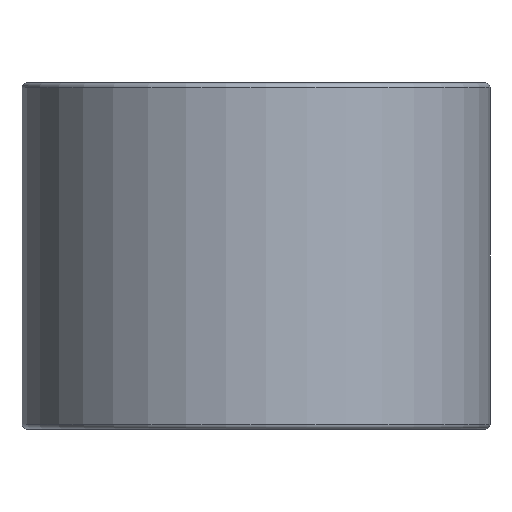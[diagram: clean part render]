
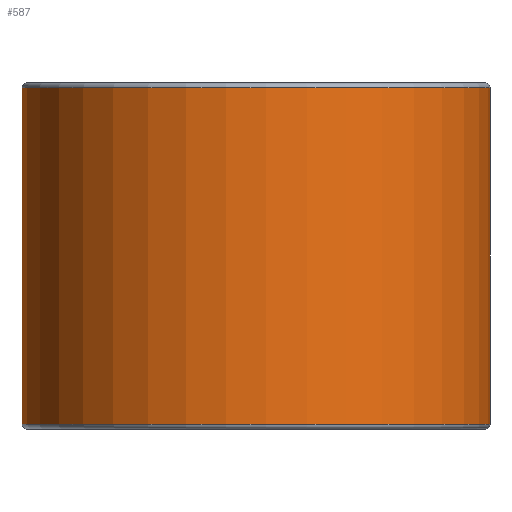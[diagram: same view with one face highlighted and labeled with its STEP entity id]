
A CAD part, front view. The second image highlights one B-rep face of the part: STEP entity #587.
In plain terms, the highlighted cylindrical face has radius 23 mm (diameter 46 mm), a full revolution.
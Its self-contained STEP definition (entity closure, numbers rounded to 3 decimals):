
#587=ADVANCED_FACE('',(#699,#700),#658,.T.);
#658=CYLINDRICAL_SURFACE('',#1517,23.);
#699=FACE_BOUND('',#776,.T.);
#700=FACE_BOUND('',#777,.T.);
#776=EDGE_LOOP('',(#911));
#777=EDGE_LOOP('',(#912));
#911=ORIENTED_EDGE('',*,*,#1297,.T.);
#912=ORIENTED_EDGE('',*,*,#1298,.T.);
#1185=VERTEX_POINT('',#2151);
#1186=VERTEX_POINT('',#2153);
#1297=EDGE_CURVE('',#1185,#1185,#1431,.T.);
#1298=EDGE_CURVE('',#1186,#1186,#1432,.T.);
#1431=CIRCLE('',#1515,23.);
#1432=CIRCLE('',#1516,23.);
#1515=AXIS2_PLACEMENT_3D('',#2150,#1705,#1706);
#1516=AXIS2_PLACEMENT_3D('',#2152,#1707,#1708);
#1517=AXIS2_PLACEMENT_3D('',#2154,#1709,#1710);
#1705=DIRECTION('',(0.,0.,-1.));
#1706=DIRECTION('',(1.,0.,0.));
#1707=DIRECTION('',(0.,0.,1.));
#1708=DIRECTION('',(1.,0.,0.));
#1709=DIRECTION('',(0.,0.,-1.));
#1710=DIRECTION('',(-1.,0.,0.));
#2150=CARTESIAN_POINT('',(0.,0.,33.5));
#2151=CARTESIAN_POINT('',(23.,0.,33.5));
#2152=CARTESIAN_POINT('',(0.,0.,0.5));
#2153=CARTESIAN_POINT('',(23.,0.,0.5));
#2154=CARTESIAN_POINT('',(0.,0.,34.));
